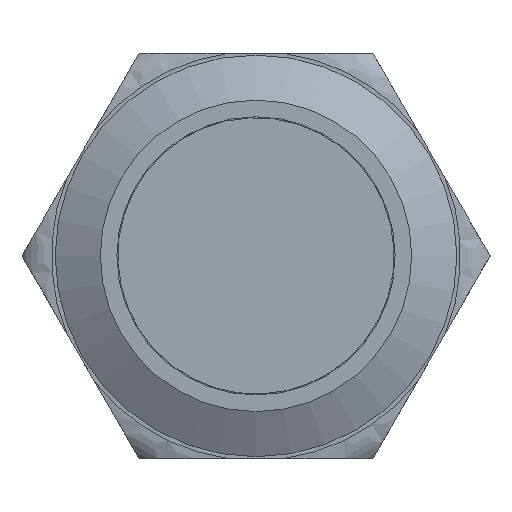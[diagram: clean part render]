
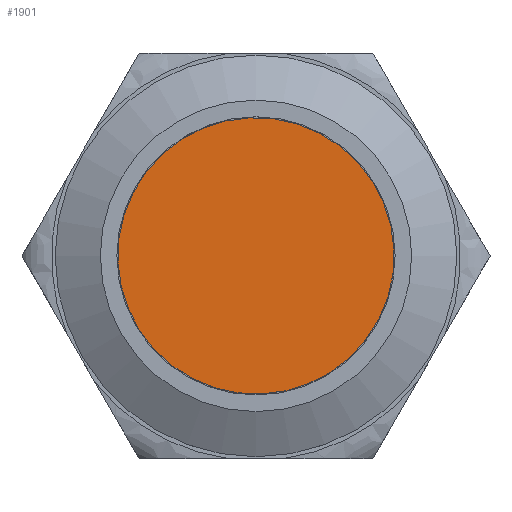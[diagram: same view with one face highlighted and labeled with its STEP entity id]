
A CAD part, top view. The second image highlights one B-rep face of the part: STEP entity #1901.
In plain terms, the highlighted planar face has unit normal (0, 0, 1) as drawn and (0, 0, -1) by its records, which use the part's own axes.
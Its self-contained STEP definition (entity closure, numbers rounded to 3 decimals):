
#1450=FACE_OUTER_BOUND('',#2294,.T.);
#1739=PLANE('',#4561);
#1901=ADVANCED_FACE('',(#1450),#1739,.F.);
#2294=EDGE_LOOP('',(#2614));
#2614=ORIENTED_EDGE('',*,*,#3937,.T.);
#3582=VERTEX_POINT('',#7352);
#3937=EDGE_CURVE('',#3582,#3582,#4427,.T.);
#4427=CIRCLE('',#4557,7.5);
#4557=AXIS2_PLACEMENT_3D('',#7351,#4928,#4929);
#4561=AXIS2_PLACEMENT_3D('',#7357,#4936,#4937);
#4928=DIRECTION('',(0.,0.,-1.));
#4929=DIRECTION('',(1.,0.,0.));
#4936=DIRECTION('',(0.,0.,1.));
#4937=DIRECTION('',(1.,0.,0.));
#7351=CARTESIAN_POINT('',(0.,0.,-1.85));
#7352=CARTESIAN_POINT('',(7.5,0.,-1.85));
#7357=CARTESIAN_POINT('',(0.,0.,-1.85));
